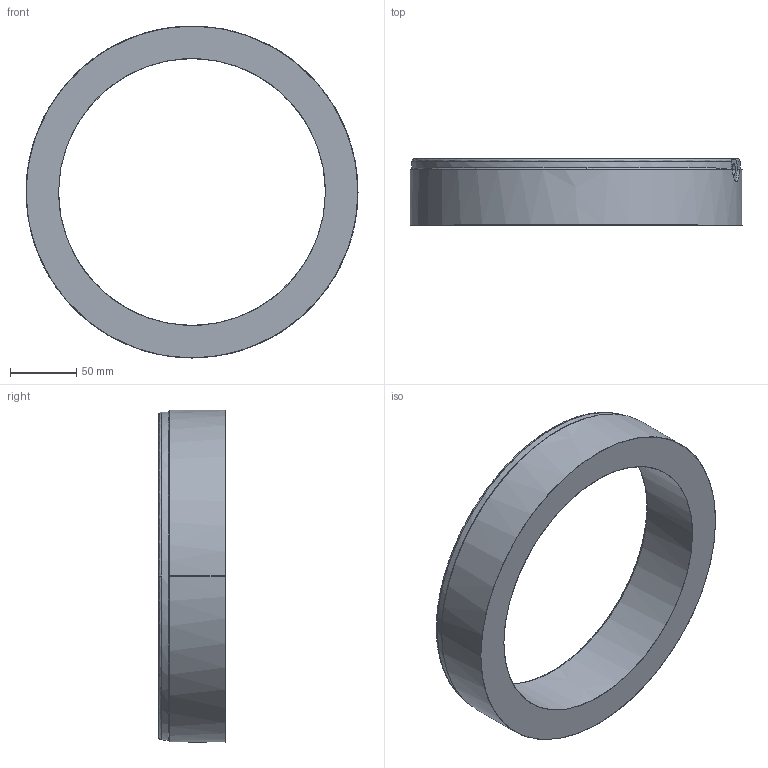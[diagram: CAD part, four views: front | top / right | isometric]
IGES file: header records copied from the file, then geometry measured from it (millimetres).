
Start section:  PTC IGES file: psb_d200.igs
Global section: file name: psb_d200.igs; native system: Pro/ENGINEER by Parametric Technology Corporation; preprocessor: 2011490; author: mtunjic; organization: Unknown; date: 20130730.104318; units: millimetre
Bounding box: 250 x 50 x 250 mm (x, y, z)
Surface area: 104651.3 mm2 (no closed solid volume)
Topology: 0 solids, 0 shells, 26 faces, 128 edges, 128 vertices
Faces by surface type: bspline 26
